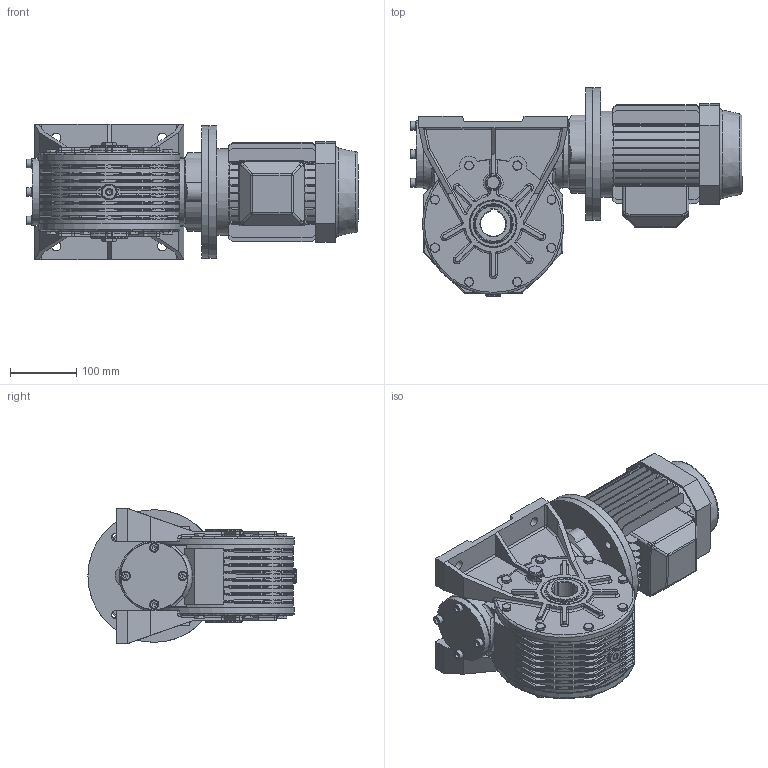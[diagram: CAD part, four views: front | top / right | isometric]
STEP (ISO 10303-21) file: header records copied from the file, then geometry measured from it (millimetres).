
FILE_DESCRIPTION((''),'2;1');
FILE_NAME('Y:\Archivi Inventor\Prog_01\GRAND_50\complessivi\Figurini\MRV50 sito\80\mrv50_P1_80_b5.stp','2013-02-06T15:22:12',('tech3'),(''),'Autodesk Inventor 2013','Autodesk Inventor 2013','');
FILE_SCHEMA(('AUTOMOTIVE_DESIGN { 1 0 10303 214 1 1 1 1 }'));
Length unit declared in the file: millimetre
Products named in the file (18): mrv50_80_90l_90s_b5; mrv50_fig; Figurino_carcassa_MRV50; 0105028; 0105029; figurino_corona_MRV50; figurino_0105010; Guarnizione 3_8 GAS; Tappo 3_8 GAS_esagn_incsst; Tappo3_8 GAS; figurino_0105009; ISO 4017 M8 x 20; 55_70_8; UNI 6592 8.4 x 14; UNI 5931  M 8 x  25; 0105006; ISO 4762 M8 x 20; motori B5 80
Assembly tree (50 placements, depth 3):
  mrv50_80_90l_90s_b5
    mrv50_fig
      Figurino_carcassa_MRV50
      0105028  x2
      0105029  x2
      figurino_corona_MRV50
      figurino_0105010  x2
      Guarnizione 3_8 GAS  x4
      Tappo 3_8 GAS_esagn_incsst  x2
      Tappo3_8 GAS  x2
      figurino_0105009
      ISO 4017 M8 x 20  x16
      55_70_8  x2
      UNI 6592 8.4 x 14  x4
      UNI 5931  M 8 x  25  x4
    0105006
    ISO 4762 M8 x 20  x4
    motori B5 80
Bounding box: 500.8 x 314 x 203.7 mm (x, y, z)
Volume: 9925495.4 mm3; surface area: 1203739.8 mm2
Topology: 61 solids, 63 shells, 2234 faces, 5433 edges, 3251 vertices
Faces by surface type: plane 903, cylinder 673, cone 251, torus 175, bspline 162, sphere 70
Full cylindrical faces by diameter (mm): 2 x2, 6.647 x24, 8 x26, 8.4 x4, 8.5 x48, 11.63 x16, 12 x8, 13 x12, 13.046 x2, 14 x8, 14.95 x4, 16.3 x4, 16.5 x2, 19 x1, 22 x8, 24 x2, 55 x1, 60 x1, 66.4 x2, 69 x2, 70 x5, 72 x4, 73 x2, 75 x1, 99.5 x2, 100 x1, 101 x1, 102 x2, 114.4 x1, 124 x1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
Entity records: 54420 total; most frequent: CARTESIAN_POINT 18000, DIRECTION 7506, ORIENTED_EDGE 7088, EDGE_CURVE 3544, AXIS2_PLACEMENT_3D 2910, VERTEX_POINT 2304, EDGE_LOOP 1914, VECTOR 1686
